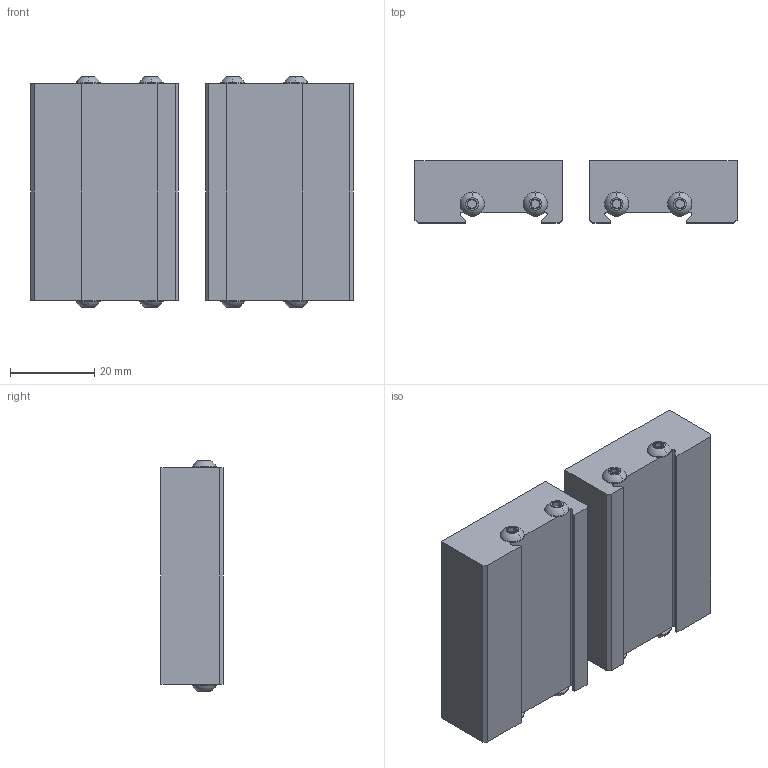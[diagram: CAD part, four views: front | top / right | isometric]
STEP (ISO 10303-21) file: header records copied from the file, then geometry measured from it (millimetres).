
FILE_DESCRIPTION (( 'STEP AP214' ), '1' );
FILE_NAME ('VAJ-V52Q RENDER.STEP', '2026-09-21T15:51:15', ( '' ), ( '' ), 'SwSTEP 2.0', 'SolidWorks 2024', '' );
FILE_SCHEMA (( 'AUTOMOTIVE_DESIGN' ));
Length unit declared in the file: millimetre
Products named in the file (3): VAJ-V52Q RENDER; 97763A812_18-8 Stainless Steel Button Head Hex Drive Screws.step; VAJ-V52Q-1
Assembly tree (10 placements, depth 2):
  VAJ-V52Q RENDER
    VAJ-V52Q-1  x2
    97763A812_18-8 Stainless Steel Button Head Hex Drive Screws.step  x8
Bounding box: 76.55 x 14.75 x 54.84 mm (x, y, z)
Volume: 47903.2 mm3; surface area: 14999.2 mm2
Topology: 10 solids, 10 shells, 696 faces, 1792 edges, 1148 vertices
Faces by surface type: cylinder 420, plane 124, cone 120, bspline 16, sphere 16
Full cylindrical faces by diameter (mm): 2.5 x8, 3 x8, 3.429 x8
Entity records: 5019 total; most frequent: CARTESIAN_POINT 2409, ORIENTED_EDGE 536, DIRECTION 468, EDGE_CURVE 268, AXIS2_PLACEMENT_3D 182, VERTEX_POINT 181, EDGE_LOOP 143, FACE_OUTER_BOUND 129
